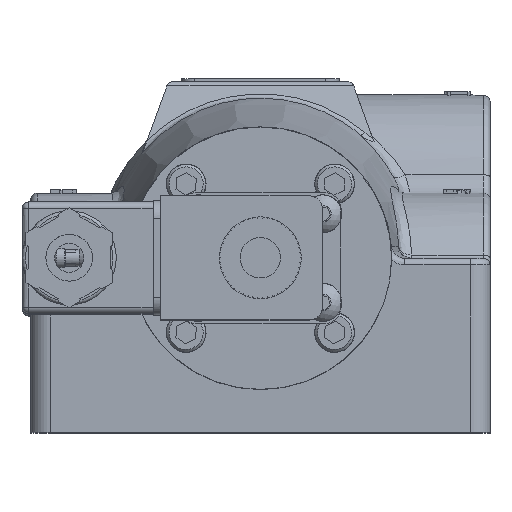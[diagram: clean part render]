
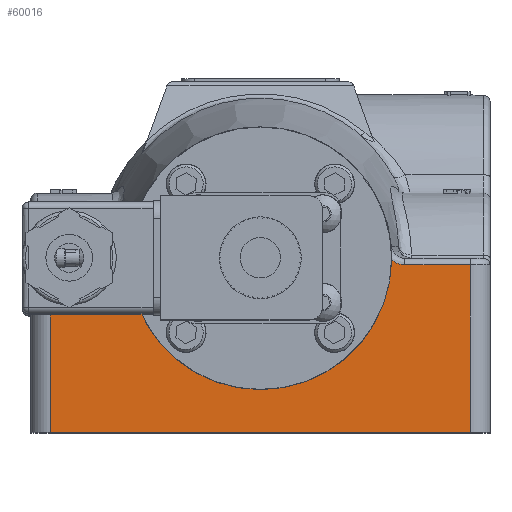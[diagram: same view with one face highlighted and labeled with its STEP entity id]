
A CAD part, top view. The second image highlights one B-rep face of the part: STEP entity #60016.
In plain terms, the highlighted planar face has unit normal (0, 0, 1).
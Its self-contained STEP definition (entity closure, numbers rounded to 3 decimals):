
#3636=CIRCLE('',#64716,3.178);
#7053=FACE_OUTER_BOUND('',#11020,.T.);
#11020=EDGE_LOOP('',(#42881,#42882,#42883,#42884,#42885,#42886,#42887,#42888));
#15450=LINE('',#93431,#19552);
#15451=LINE('',#93433,#19553);
#15452=LINE('',#93435,#19554);
#15453=LINE('',#93450,#19555);
#15454=LINE('',#93451,#19556);
#19552=VECTOR('',#75147,10.16);
#19553=VECTOR('',#75148,4.047);
#19554=VECTOR('',#75149,1.583);
#19555=VECTOR('',#75152,1.583);
#19556=VECTOR('',#75153,4.047);
#22106=B_SPLINE_CURVE_WITH_KNOTS('',3,(#93437,#93438,#93439,#93440),
 .UNSPECIFIED.,.F.,.F.,(4,4),(0.356,0.703),
 .UNSPECIFIED.);
#22107=B_SPLINE_CURVE_WITH_KNOTS('',3,(#93444,#93445,#93446,#93447,#93448),
 .UNSPECIFIED.,.F.,.F.,(4,1,4),(0.,0.291,0.347),
 .UNSPECIFIED.);
#25207=VERTEX_POINT('',#93429);
#25208=VERTEX_POINT('',#93430);
#25209=VERTEX_POINT('',#93432);
#25210=VERTEX_POINT('',#93434);
#25211=VERTEX_POINT('',#93436);
#25212=VERTEX_POINT('',#93441);
#25213=VERTEX_POINT('',#93443);
#25214=VERTEX_POINT('',#93449);
#31618=EDGE_CURVE('',#25207,#25208,#15450,.T.);
#31619=EDGE_CURVE('',#25209,#25207,#15451,.T.);
#31620=EDGE_CURVE('',#25210,#25209,#15452,.T.);
#31621=EDGE_CURVE('',#25211,#25210,#22106,.T.);
#31622=EDGE_CURVE('',#25212,#25211,#3636,.T.);
#31623=EDGE_CURVE('',#25213,#25212,#22107,.T.);
#31624=EDGE_CURVE('',#25214,#25213,#15453,.T.);
#31625=EDGE_CURVE('',#25208,#25214,#15454,.T.);
#42881=ORIENTED_EDGE('',*,*,#31618,.F.);
#42882=ORIENTED_EDGE('',*,*,#31619,.F.);
#42883=ORIENTED_EDGE('',*,*,#31620,.F.);
#42884=ORIENTED_EDGE('',*,*,#31621,.F.);
#42885=ORIENTED_EDGE('',*,*,#31622,.F.);
#42886=ORIENTED_EDGE('',*,*,#31623,.F.);
#42887=ORIENTED_EDGE('',*,*,#31624,.F.);
#42888=ORIENTED_EDGE('',*,*,#31625,.F.);
#54255=PLANE('',#64715);
#60016=ADVANCED_FACE('',(#7053),#54255,.T.);
#64715=AXIS2_PLACEMENT_3D('',#93428,#75145,#75146);
#64716=AXIS2_PLACEMENT_3D('',#93442,#75150,#75151);
#75145=DIRECTION('center_axis',(0.,0.,1.));
#75146=DIRECTION('ref_axis',(1.,0.,0.));
#75147=DIRECTION('',(-1.,0.,0.));
#75148=DIRECTION('',(0.,-1.,0.));
#75149=DIRECTION('',(1.,0.,0.));
#75150=DIRECTION('center_axis',(0.,0.,1.));
#75151=DIRECTION('ref_axis',(-1.,0.,0.));
#75152=DIRECTION('',(1.,0.,0.));
#75153=DIRECTION('',(0.,1.,0.));
#93428=CARTESIAN_POINT('Origin',(0.,-4.286,8.652));
#93429=CARTESIAN_POINT('',(5.08,-4.206,8.652));
#93430=CARTESIAN_POINT('',(-5.08,-4.206,8.652));
#93431=CARTESIAN_POINT('',(0.,-4.206,8.652));
#93432=CARTESIAN_POINT('',(5.08,-0.159,8.652));
#93433=CARTESIAN_POINT('',(5.08,-3.215,8.652));
#93434=CARTESIAN_POINT('',(3.497,-0.159,8.652));
#93435=CARTESIAN_POINT('',(0.,-0.159,8.652));
#93436=CARTESIAN_POINT('',(3.177,-0.037,8.652));
#93437=CARTESIAN_POINT('Ctrl Pts',(3.178,-0.037,
8.652));
#93438=CARTESIAN_POINT('Ctrl Pts',(3.265,-0.114,
8.652));
#93439=CARTESIAN_POINT('Ctrl Pts',(3.381,-0.159,
8.652));
#93440=CARTESIAN_POINT('Ctrl Pts',(3.497,-0.159,
8.652));
#93441=CARTESIAN_POINT('',(-3.177,-0.037,8.652));
#93442=CARTESIAN_POINT('Origin',(0.,0.,8.652));
#93443=CARTESIAN_POINT('',(-3.497,-0.159,8.652));
#93444=CARTESIAN_POINT('Ctrl Pts',(-3.497,-0.159,
8.652));
#93445=CARTESIAN_POINT('Ctrl Pts',(-3.4,-0.159,
8.652));
#93446=CARTESIAN_POINT('Ctrl Pts',(-3.283,-0.122,
8.652));
#93447=CARTESIAN_POINT('Ctrl Pts',(-3.192,-0.05,
8.652));
#93448=CARTESIAN_POINT('Ctrl Pts',(-3.178,-0.037,
8.652));
#93449=CARTESIAN_POINT('',(-5.08,-0.159,8.652));
#93450=CARTESIAN_POINT('',(0.,-0.159,8.652));
#93451=CARTESIAN_POINT('',(-5.08,-3.215,8.652));
